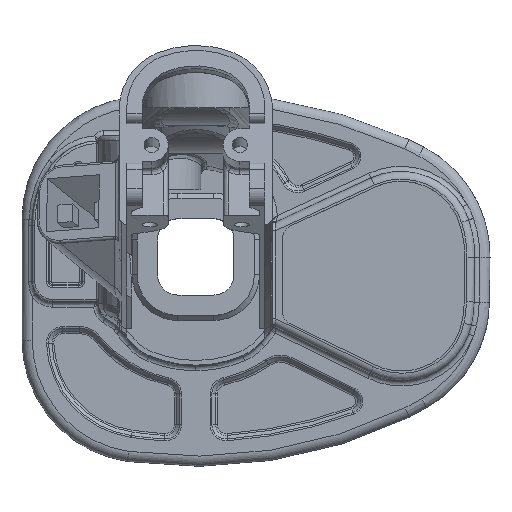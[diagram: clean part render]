
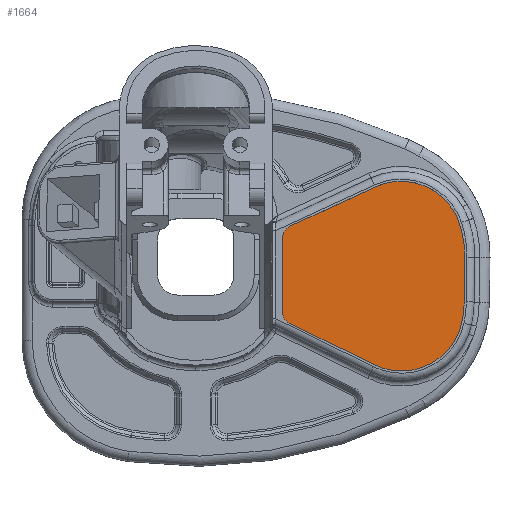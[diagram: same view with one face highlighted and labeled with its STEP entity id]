
A CAD part, top view. The second image highlights one B-rep face of the part: STEP entity #1664.
In plain terms, the highlighted planar face has unit normal (0, 0, 1).
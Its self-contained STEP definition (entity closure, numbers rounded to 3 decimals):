
#948=FACE_OUTER_BOUND('',#2620,.T.);
#1664=ADVANCED_FACE('',(#948),#2234,.F.);
#2234=PLANE('',#11984);
#2620=EDGE_LOOP('',(#6296,#6297,#6298,#6299,#6300,#6301,#6302,#6303,#6304,
#6305));
#3454=B_SPLINE_CURVE_WITH_KNOTS('',3,(#23321,#23322,#23323,#23324,#23325,
#23326,#23327,#23328,#23329,#23330),.UNSPECIFIED.,.F.,.F.,(4,3,3,4),(0.,
0.279,0.559,1.),.UNSPECIFIED.);
#3455=B_SPLINE_CURVE_WITH_KNOTS('',3,(#23345,#23346,#23347,#23348,#23349,
#23350,#23351,#23352,#23353,#23354),.UNSPECIFIED.,.F.,.F.,(4,3,3,4),(0.,
0.276,0.553,1.),.UNSPECIFIED.);
#4066=LINE('',#23341,#4618);
#4070=LINE('',#23377,#4622);
#4073=LINE('',#23383,#4625);
#4076=LINE('',#23389,#4628);
#4618=VECTOR('',#13853,1.);
#4622=VECTOR('',#13863,1.);
#4625=VECTOR('',#13868,1.);
#4628=VECTOR('',#13873,1.);
#6296=ORIENTED_EDGE('',*,*,#10296,.F.);
#6297=ORIENTED_EDGE('',*,*,#10300,.F.);
#6298=ORIENTED_EDGE('',*,*,#10293,.F.);
#6299=ORIENTED_EDGE('',*,*,#10291,.F.);
#6300=ORIENTED_EDGE('',*,*,#10289,.F.);
#6301=ORIENTED_EDGE('',*,*,#10287,.F.);
#6302=ORIENTED_EDGE('',*,*,#10285,.F.);
#6303=ORIENTED_EDGE('',*,*,#10283,.F.);
#6304=ORIENTED_EDGE('',*,*,#10299,.F.);
#6305=ORIENTED_EDGE('',*,*,#10301,.F.);
#9010=VERTEX_POINT('',#23316);
#9011=VERTEX_POINT('',#23318);
#9012=VERTEX_POINT('',#23331);
#9013=VERTEX_POINT('',#23342);
#9014=VERTEX_POINT('',#23355);
#9015=VERTEX_POINT('',#23374);
#9016=VERTEX_POINT('',#23378);
#9017=VERTEX_POINT('',#23382);
#9018=VERTEX_POINT('',#23384);
#9019=VERTEX_POINT('',#23388);
#10283=EDGE_CURVE('',#9010,#9011,#11194,.T.);
#10285=EDGE_CURVE('',#9011,#9012,#3454,.T.);
#10287=EDGE_CURVE('',#9012,#9013,#4066,.T.);
#10289=EDGE_CURVE('',#9013,#9014,#3455,.T.);
#10291=EDGE_CURVE('',#9014,#9015,#11195,.T.);
#10293=EDGE_CURVE('',#9015,#9016,#4070,.T.);
#10296=EDGE_CURVE('',#9017,#9018,#4073,.T.);
#10299=EDGE_CURVE('',#9019,#9010,#4076,.T.);
#10300=EDGE_CURVE('',#9016,#9017,#11196,.T.);
#10301=EDGE_CURVE('',#9018,#9019,#11197,.T.);
#11194=CIRCLE('',#11974,12.07);
#11195=CIRCLE('',#11977,12.07);
#11196=CIRCLE('',#11982,2.57);
#11197=CIRCLE('',#11983,2.57);
#11974=AXIS2_PLACEMENT_3D('',#23317,#13847,#13848);
#11977=AXIS2_PLACEMENT_3D('',#23373,#13858,#13859);
#11982=AXIS2_PLACEMENT_3D('',#23391,#13876,#13877);
#11983=AXIS2_PLACEMENT_3D('',#23392,#13878,#13879);
#11984=AXIS2_PLACEMENT_3D('',#23393,#13880,#13881);
#13847=DIRECTION('',(0.,0.,-1.));
#13848=DIRECTION('',(0.,1.,0.));
#13853=DIRECTION('',(-0.013,-1.,0.));
#13858=DIRECTION('',(0.,0.,-1.));
#13859=DIRECTION('',(0.,1.,0.));
#13863=DIRECTION('',(-0.898,0.439,0.));
#13868=DIRECTION('',(0.,1.,0.));
#13873=DIRECTION('',(0.908,0.42,0.));
#13876=DIRECTION('',(0.,0.,-1.));
#13877=DIRECTION('',(0.,1.,0.));
#13878=DIRECTION('',(0.,0.,-1.));
#13879=DIRECTION('',(0.,1.,0.));
#13880=DIRECTION('',(0.,0.,-1.));
#13881=DIRECTION('',(0.,1.,0.));
#23316=CARTESIAN_POINT('',(124.853,78.683,87.47));
#23317=CARTESIAN_POINT('',(129.917,67.726,87.47));
#23318=CARTESIAN_POINT('',(141.342,71.62,87.47));
#23321=CARTESIAN_POINT('',(141.342,71.62,87.47));
#23322=CARTESIAN_POINT('',(141.547,71.018,87.47));
#23323=CARTESIAN_POINT('',(141.723,70.405,87.47));
#23324=CARTESIAN_POINT('',(141.869,69.786,87.47));
#23325=CARTESIAN_POINT('',(142.015,69.167,87.47));
#23326=CARTESIAN_POINT('',(142.132,68.54,87.47));
#23327=CARTESIAN_POINT('',(142.219,67.911,87.47));
#23328=CARTESIAN_POINT('',(142.357,66.916,87.47));
#23329=CARTESIAN_POINT('',(142.421,65.909,87.47));
#23330=CARTESIAN_POINT('',(142.408,64.906,87.47));
#23331=CARTESIAN_POINT('',(142.408,64.906,87.47));
#23341=CARTESIAN_POINT('',(142.443,67.561,87.47));
#23342=CARTESIAN_POINT('',(142.293,56.197,87.47));
#23345=CARTESIAN_POINT('',(142.293,56.197,87.47));
#23346=CARTESIAN_POINT('',(142.288,55.818,87.47));
#23347=CARTESIAN_POINT('',(142.272,55.439,87.47));
#23348=CARTESIAN_POINT('',(142.245,55.06,87.47));
#23349=CARTESIAN_POINT('',(142.219,54.682,87.47));
#23350=CARTESIAN_POINT('',(142.182,54.304,87.47));
#23351=CARTESIAN_POINT('',(142.134,53.928,87.47));
#23352=CARTESIAN_POINT('',(142.056,53.32,87.47));
#23353=CARTESIAN_POINT('',(141.951,52.714,87.47));
#23354=CARTESIAN_POINT('',(141.818,52.115,87.47));
#23355=CARTESIAN_POINT('',(141.818,52.115,87.47));
#23373=CARTESIAN_POINT('',(130.037,54.739,87.47));
#23374=CARTESIAN_POINT('',(124.736,43.896,87.47));
#23377=CARTESIAN_POINT('',(119.515,46.448,87.47));
#23378=CARTESIAN_POINT('',(108.159,51.999,87.47));
#23382=CARTESIAN_POINT('',(106.718,54.308,87.47));
#23383=CARTESIAN_POINT('',(106.718,67.726,87.47));
#23384=CARTESIAN_POINT('',(106.718,68.658,87.47));
#23388=CARTESIAN_POINT('',(108.209,70.991,87.47));
#23389=CARTESIAN_POINT('',(124.853,78.683,87.47));
#23391=CARTESIAN_POINT('',(109.288,54.308,87.47));
#23392=CARTESIAN_POINT('',(109.288,68.658,87.47));
#23393=CARTESIAN_POINT('',(129.917,67.726,87.47));
